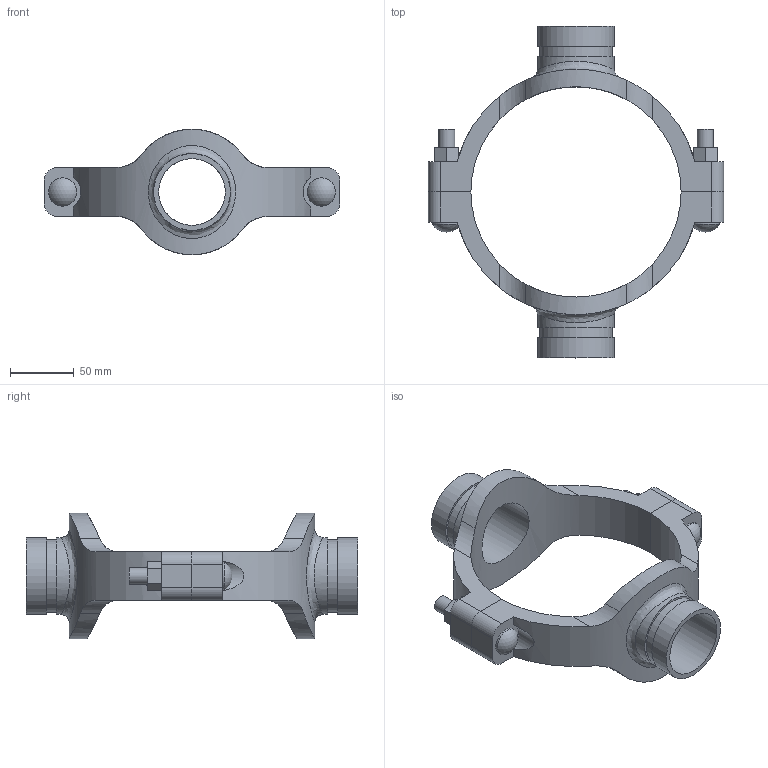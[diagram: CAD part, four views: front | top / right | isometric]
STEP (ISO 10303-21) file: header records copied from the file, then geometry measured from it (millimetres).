
FILE_DESCRIPTION(/* description */ ('VIC MECH-T BRANCH OUTLET CROSS STYLE 920N (GRVD)','CAx-IF Rec.Pracs.---Representation and Presentation of Product Manufacturing Information (PMI)---4.0---2014-10-13'),/* implementation_level */ '2;1');
FILE_NAME(/* name */ 'C:\Users\Vjadhav\AppData\Roaming\Autodesk\ApplicationPlugins\Back Up\Victaulic_IPS_Mechanical-Cross Outlet_Style 920N (OGS)\Victaulic_IPS_Mechanical-Cross Outlet_06.0 (165.1)x02.0x02.0 (150x50x50).stp',/* time_stamp */ '2020-08-06T19:45:20+05:00',/* author */ ('Vjadhav'),/* organization */ ('Victaulic'),/* preprocessor_version */ 'ST-DEVELOPER v17.2',/* originating_system */ 'Autodesk Inventor 2019',/* authorisation */ '');
FILE_SCHEMA (('AP242_MANAGED_MODEL_BASED_3D_ENGINEERING_MIM_LF { 1 0 10303 442 1 1 4 }'));
Length unit declared in the file: inch
Products named in the file (3): 920NG-06.0 (165.1)x02.0x02.0; 920NG-06.0 (165.1)x02.0; 920NG-06.0 (165.1)x02.0_1
Assembly tree (2 placements, depth 2):
  920NG-06.0 (165.1)x02.0x02.0
    920NG-06.0 (165.1)x02.0
    920NG-06.0 (165.1)x02.0_1
Bounding box: 231.9 x 260.6 x 98.55 mm (x, y, z)
Volume: 469895.5 mm3; surface area: 122119.9 mm2
Topology: 2 solids, 2 shells, 108 faces, 274 edges, 186 vertices
Faces by surface type: plane 54, cylinder 50, sphere 2, bspline 2
Full cylindrical faces by diameter (mm): 12.7 x4, 22.225 x2, 52.387 x2, 57.15 x2, 60.325 x4
Entity records: 4390 total; most frequent: CARTESIAN_POINT 1509, DIRECTION 552, ORIENTED_EDGE 548, EDGE_CURVE 274, AXIS2_PLACEMENT_3D 201, VERTEX_POINT 186, LINE 150, VECTOR 150
